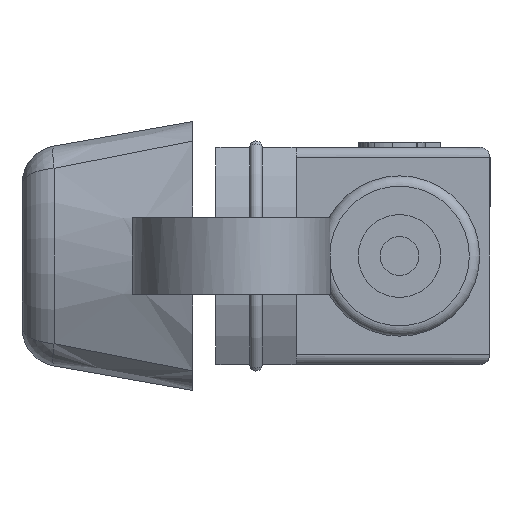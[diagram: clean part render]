
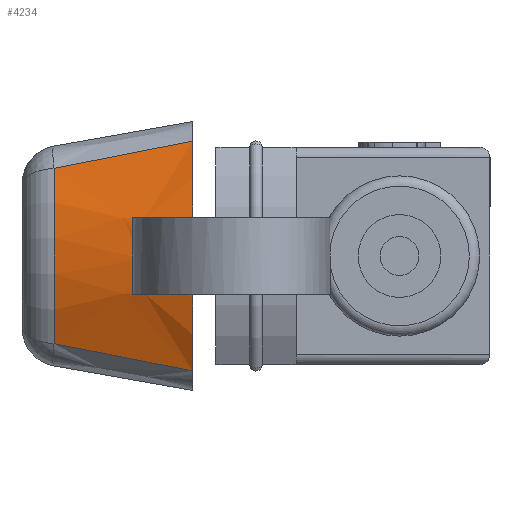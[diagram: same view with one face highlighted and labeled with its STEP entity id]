
A CAD part, left-side view. The second image highlights one B-rep face of the part: STEP entity #4234.
In plain terms, the highlighted conical face has half-angle 10 degrees and reference radius 11.557 mm.
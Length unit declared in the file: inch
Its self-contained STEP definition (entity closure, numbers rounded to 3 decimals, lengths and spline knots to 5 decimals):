
#20=CONICAL_SURFACE('',#4548,0.455,0.175);
#128=B_SPLINE_CURVE_WITH_KNOTS('',3,(#5918,#5919,#5920,#5921),
 .UNSPECIFIED.,.F.,.F.,(4,4),(0.,0.25422),.UNSPECIFIED.);
#132=B_SPLINE_CURVE_WITH_KNOTS('',3,(#6095,#6096,#6097,#6098,#6099,#6100,
#6101,#6102,#6103,#6104,#6105,#6106,#6107),.UNSPECIFIED.,.F.,.F.,(4,3,3,
3,4),(0.,0.14153,0.18912,0.33064,0.37824),
 .UNSPECIFIED.);
#284=B_SPLINE_CURVE_WITH_KNOTS('',3,(#8306,#8307,#8308,#8309),
 .UNSPECIFIED.,.F.,.F.,(4,4),(0.19442,0.88961),
 .UNSPECIFIED.);
#291=B_SPLINE_CURVE_WITH_KNOTS('',3,(#8425,#8426,#8427,#8428),
 .UNSPECIFIED.,.F.,.F.,(4,4),(-0.88025,-0.18506),
 .UNSPECIFIED.);
#292=(
BOUNDED_CURVE()
B_SPLINE_CURVE(2,(#5529,#5530,#5531),.UNSPECIFIED.,.F.,.F.)
B_SPLINE_CURVE_WITH_KNOTS((3,3),(0.06651,0.2311),
 .UNSPECIFIED.)
CURVE()
GEOMETRIC_REPRESENTATION_ITEM()
RATIONAL_B_SPLINE_CURVE((1.,1.,1.))
REPRESENTATION_ITEM('')
);
#293=(
BOUNDED_CURVE()
B_SPLINE_CURVE(2,(#6057,#6058,#6059),.UNSPECIFIED.,.F.,.F.)
B_SPLINE_CURVE_WITH_KNOTS((3,3),(0.06983,0.23442),
 .UNSPECIFIED.)
CURVE()
GEOMETRIC_REPRESENTATION_ITEM()
RATIONAL_B_SPLINE_CURVE((1.,1.,1.))
REPRESENTATION_ITEM('')
);
#294=ELLIPSE('',#4314,3.67768,0.85609);
#295=ELLIPSE('',#4316,3.67768,0.85609);
#417=CIRCLE('',#4540,0.40774);
#420=CIRCLE('',#4549,0.455);
#447=FACE_BOUND('',#970,.T.);
#695=FACE_OUTER_BOUND('',#969,.T.);
#969=EDGE_LOOP('',(#3843,#3844,#3845,#3846));
#970=EDGE_LOOP('',(#3847,#3848,#3849,#3850,#3851,#3852));
#1685=VERTEX_POINT('',#5514);
#1686=VERTEX_POINT('',#5515);
#1688=VERTEX_POINT('',#5521);
#1689=VERTEX_POINT('',#5522);
#1691=VERTEX_POINT('',#5528);
#1695=VERTEX_POINT('',#6056);
#2038=VERTEX_POINT('',#8262);
#2040=VERTEX_POINT('',#8286);
#2046=VERTEX_POINT('',#8374);
#2049=VERTEX_POINT('',#8400);
#2087=EDGE_CURVE('',#1685,#1686,#294,.T.);
#2090=EDGE_CURVE('',#1688,#1689,#295,.T.);
#2093=EDGE_CURVE('',#1689,#1691,#292,.T.);
#2097=EDGE_CURVE('',#1686,#1688,#128,.T.);
#2100=EDGE_CURVE('',#1695,#1685,#293,.T.);
#2103=EDGE_CURVE('',#1691,#1695,#132,.T.);
#2631=EDGE_CURVE('',#2040,#2038,#284,.T.);
#2646=EDGE_CURVE('',#2046,#2049,#291,.T.);
#2649=EDGE_CURVE('',#2038,#2046,#417,.T.);
#2656=EDGE_CURVE('',#2040,#2049,#420,.T.);
#3843=ORIENTED_EDGE('',*,*,#2631,.F.);
#3844=ORIENTED_EDGE('',*,*,#2656,.T.);
#3845=ORIENTED_EDGE('',*,*,#2646,.F.);
#3846=ORIENTED_EDGE('',*,*,#2649,.F.);
#3847=ORIENTED_EDGE('',*,*,#2097,.T.);
#3848=ORIENTED_EDGE('',*,*,#2090,.T.);
#3849=ORIENTED_EDGE('',*,*,#2093,.T.);
#3850=ORIENTED_EDGE('',*,*,#2103,.T.);
#3851=ORIENTED_EDGE('',*,*,#2100,.T.);
#3852=ORIENTED_EDGE('',*,*,#2087,.T.);
#4234=ADVANCED_FACE('',(#695,#447),#20,.T.);
#4314=AXIS2_PLACEMENT_3D('',#5516,#4640,#4641);
#4316=AXIS2_PLACEMENT_3D('',#5523,#4646,#4647);
#4540=AXIS2_PLACEMENT_3D('',#8433,#5404,#5405);
#4548=AXIS2_PLACEMENT_3D('',#8445,#5424,#5425);
#4549=AXIS2_PLACEMENT_3D('',#8446,#5426,#5427);
#4640=DIRECTION('center_axis',(0.958,0.,0.288));
#4641=DIRECTION('ref_axis',(-0.288,0.,0.958));
#4646=DIRECTION('center_axis',(0.958,0.,0.288));
#4647=DIRECTION('ref_axis',(-0.288,0.,0.958));
#5404=DIRECTION('center_axis',(0.,0.,1.));
#5405=DIRECTION('ref_axis',(-1.,0.,0.));
#5424=DIRECTION('center_axis',(0.,0.,-1.));
#5425=DIRECTION('ref_axis',(-0.821,0.571,0.));
#5426=DIRECTION('center_axis',(0.,0.,1.));
#5427=DIRECTION('ref_axis',(-0.821,0.571,0.));
#5514=CARTESIAN_POINT('',(0.02238,0.284,0.66632));
#5515=CARTESIAN_POINT('',(0.02022,0.25984,0.67352));
#5516=CARTESIAN_POINT('Origin',(1.07608,0.21,-2.84282));
#5521=CARTESIAN_POINT('',(0.02022,0.16016,0.67352));
#5522=CARTESIAN_POINT('',(0.02238,0.136,0.66632));
#5523=CARTESIAN_POINT('Origin',(1.07608,0.21,-2.84282));
#5528=CARTESIAN_POINT('',(0.01098,0.136,0.60255));
#5529=CARTESIAN_POINT('Ctrl Pts',(0.02238,0.136,0.66632));
#5530=CARTESIAN_POINT('Ctrl Pts',(0.01676,0.136,0.63485));
#5531=CARTESIAN_POINT('Ctrl Pts',(0.01098,0.136,0.60255));
#5918=CARTESIAN_POINT('Ctrl Pts',(0.02022,0.25984,0.67352));
#5919=CARTESIAN_POINT('Ctrl Pts',(0.01621,0.22675,
0.67232));
#5920=CARTESIAN_POINT('Ctrl Pts',(0.01621,0.19325,
0.67232));
#5921=CARTESIAN_POINT('Ctrl Pts',(0.02022,0.16016,0.67352));
#6056=CARTESIAN_POINT('',(0.01098,0.284,0.60255));
#6057=CARTESIAN_POINT('Ctrl Pts',(0.01098,0.284,0.60255));
#6058=CARTESIAN_POINT('Ctrl Pts',(0.01676,0.284,0.63485));
#6059=CARTESIAN_POINT('Ctrl Pts',(0.02238,0.284,0.66632));
#6095=CARTESIAN_POINT('Ctrl Pts',(0.01098,0.136,0.60255));
#6096=CARTESIAN_POINT('Ctrl Pts',(0.00777,0.15427,
0.60163));
#6097=CARTESIAN_POINT('Ctrl Pts',(0.00576,0.17274,
0.60105));
#6098=CARTESIAN_POINT('Ctrl Pts',(0.00494,0.19128,
0.60082));
#6099=CARTESIAN_POINT('Ctrl Pts',(0.00467,0.19751,
0.60074));
#6100=CARTESIAN_POINT('Ctrl Pts',(0.00453,0.20375,
0.6007));
#6101=CARTESIAN_POINT('Ctrl Pts',(0.00453,0.21,
0.6007));
#6102=CARTESIAN_POINT('Ctrl Pts',(0.00453,0.22857,
0.6007));
#6103=CARTESIAN_POINT('Ctrl Pts',(0.00574,0.24712,
0.60105));
#6104=CARTESIAN_POINT('Ctrl Pts',(0.00815,0.26551,
0.60174));
#6105=CARTESIAN_POINT('Ctrl Pts',(0.00896,0.27169,
0.60197));
#6106=CARTESIAN_POINT('Ctrl Pts',(0.0099,0.27786,
0.60224));
#6107=CARTESIAN_POINT('Ctrl Pts',(0.01098,0.284,0.60255));
#8262=CARTESIAN_POINT('',(0.08421,0.3796,0.84302));
#8286=CARTESIAN_POINT('',(0.05795,0.43221,0.575));
#8306=CARTESIAN_POINT('Ctrl Pts',(0.05795,0.43221,
0.575));
#8307=CARTESIAN_POINT('Ctrl Pts',(0.06632,0.41489,
0.66438));
#8308=CARTESIAN_POINT('Ctrl Pts',(0.07503,0.39738,0.75373));
#8309=CARTESIAN_POINT('Ctrl Pts',(0.08421,0.3796,
0.84302));
#8374=CARTESIAN_POINT('',(0.08421,0.0404,0.84302));
#8400=CARTESIAN_POINT('',(0.05795,-0.01221,0.575));
#8425=CARTESIAN_POINT('Ctrl Pts',(0.08421,0.0404,
0.84302));
#8426=CARTESIAN_POINT('Ctrl Pts',(0.07503,0.02262,
0.75373));
#8427=CARTESIAN_POINT('Ctrl Pts',(0.06632,0.00511,
0.66438));
#8428=CARTESIAN_POINT('Ctrl Pts',(0.05795,-0.01221,
0.575));
#8433=CARTESIAN_POINT('Origin',(0.455,0.21,0.84302));
#8445=CARTESIAN_POINT('Origin',(0.455,0.21,0.575));
#8446=CARTESIAN_POINT('Origin',(0.455,0.21,0.575));
